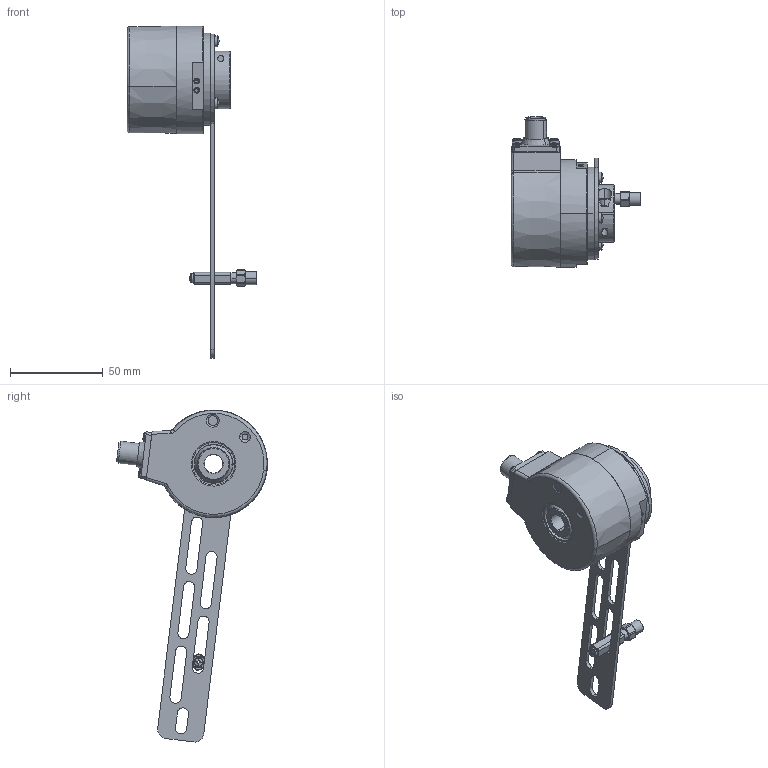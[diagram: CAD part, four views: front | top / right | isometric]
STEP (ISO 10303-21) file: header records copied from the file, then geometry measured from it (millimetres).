
FILE_DESCRIPTION (( 'STEP AP214' ), '1' );
FILE_NAME ('5834SIL.A3X6.XXXX.STEP', '2010-08-13T07:45:49', ( 'admin' ), ( 'Fritz Kübler GmbH' ), 'SwSTEP 2.0', 'SolidWorks 2009', '' );
FILE_SCHEMA (( 'AUTOMOTIVE_DESIGN' ));
Length unit declared in the file: millimetre
Products named in the file (1): 5834SIL.A3X6.XXXX
Bounding box: 70 x 81.25 x 178.83 mm (x, y, z)
Surface area: 31925.3 mm2 (no closed solid volume)
Topology: 0 solids, 28 shells, 412 faces, 1188 edges, 791 vertices
Faces by surface type: plane 167, cylinder 129, cone 62, sphere 32, torus 18, bspline 4
Entity records: 18650 total; most frequent: CARTESIAN_POINT 3234, DIRECTION 2445, ORIENTED_EDGE 2027, EDGE_CURVE 1156, AXIS2_PLACEMENT_3D 952, VERTEX_POINT 775, CIRCLE 543, VECTOR 541
